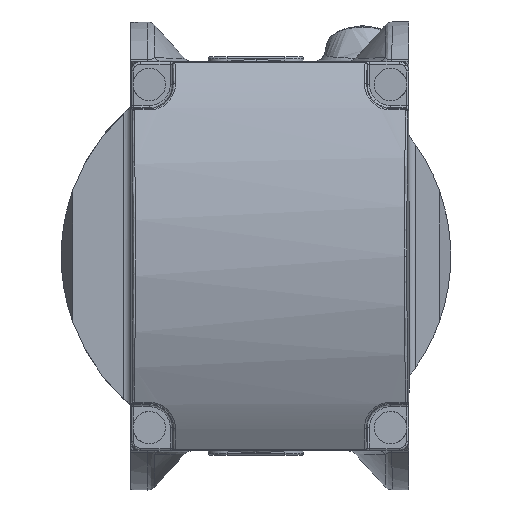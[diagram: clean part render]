
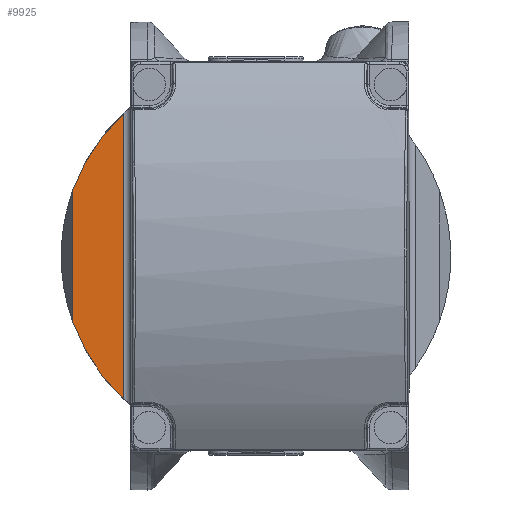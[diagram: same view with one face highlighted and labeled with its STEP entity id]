
A CAD part, left-side view. The second image highlights one B-rep face of the part: STEP entity #9925.
In plain terms, the highlighted planar face has unit normal (-1, 0, 0).
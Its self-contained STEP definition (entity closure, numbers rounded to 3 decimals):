
#398 = CARTESIAN_POINT ( 'NONE',  ( 877.5, 28.5, 1189.85 ) ) ;
#2365 = VECTOR ( 'NONE', #7289, 1000. ) ;
#2445 = CARTESIAN_POINT ( 'NONE',  ( 877.5, 28.5, 1128.15 ) ) ;
#3395 = DIRECTION ( 'NONE',  ( 1., 0., 0. ) ) ;
#3661 = CARTESIAN_POINT ( 'NONE',  ( 877.5, 47., 1216.5 ) ) ;
#4488 = VECTOR ( 'NONE', #9964, 1000. ) ;
#4510 = EDGE_CURVE ( 'NONE', #7395, #15414, #6872, .T. ) ;
#4522 = CARTESIAN_POINT ( 'NONE',  ( 877.5, 28.5, 1191.171 ) ) ;
#5015 = CIRCLE ( 'NONE', #16511, 42. ) ;
#5143 = EDGE_LOOP ( 'NONE', ( #9781, #9619, #11628, #12039 ) ) ;
#6136 = CARTESIAN_POINT ( 'NONE',  ( 877.5, 0., 1159. ) ) ;
#6872 = CIRCLE ( 'NONE', #7686, 42. ) ;
#7000 = DIRECTION ( 'NONE',  ( 0., 0., 1. ) ) ;
#7157 = AXIS2_PLACEMENT_3D ( 'NONE', #3661, #16471, #15381 ) ;
#7289 = DIRECTION ( 'NONE',  ( 0., 0., -1. ) ) ;
#7395 = VERTEX_POINT ( 'NONE', #2445 ) ;
#7686 = AXIS2_PLACEMENT_3D ( 'NONE', #15957, #3395, #7000 ) ;
#8374 = CARTESIAN_POINT ( 'NONE',  ( 877.5, 39.577, 1234. ) ) ;
#8648 = EDGE_CURVE ( 'NONE', #12457, #12350, #5015, .T. ) ;
#9615 = EDGE_CURVE ( 'NONE', #7395, #12350, #13650, .T. ) ;
#9619 = ORIENTED_EDGE ( 'NONE', *, *, #4510, .F. ) ;
#9622 = EDGE_CURVE ( 'NONE', #12457, #15414, #14724, .T. ) ;
#9644 = DIRECTION ( 'NONE',  ( 1., 0., 0. ) ) ;
#9781 = ORIENTED_EDGE ( 'NONE', *, *, #9622, .T. ) ;
#9925 = ADVANCED_FACE ( 'NONE', ( #10278 ), #16557, .T. ) ;
#9964 = DIRECTION ( 'NONE',  ( 0., 0., 1. ) ) ;
#10278 = FACE_OUTER_BOUND ( 'NONE', #5143, .T. ) ;
#11237 = DIRECTION ( 'NONE',  ( 0., 0., 1. ) ) ;
#11628 = ORIENTED_EDGE ( 'NONE', *, *, #9615, .T. ) ;
#12039 = ORIENTED_EDGE ( 'NONE', *, *, #8648, .F. ) ;
#12350 = VERTEX_POINT ( 'NONE', #398 ) ;
#12457 = VERTEX_POINT ( 'NONE', #14681 ) ;
#13650 = LINE ( 'NONE', #4522, #4488 ) ;
#14263 = CARTESIAN_POINT ( 'NONE',  ( 877.5, 39.577, 1144.942 ) ) ;
#14681 = CARTESIAN_POINT ( 'NONE',  ( 877.5, 39.577, 1173.058 ) ) ;
#14724 = LINE ( 'NONE', #8374, #2365 ) ;
#15381 = DIRECTION ( 'NONE',  ( 0., 0., 1. ) ) ;
#15414 = VERTEX_POINT ( 'NONE', #14263 ) ;
#15957 = CARTESIAN_POINT ( 'NONE',  ( 877.5, 0., 1159. ) ) ;
#16471 = DIRECTION ( 'NONE',  ( -1., 0., 0. ) ) ;
#16511 = AXIS2_PLACEMENT_3D ( 'NONE', #6136, #9644, #11237 ) ;
#16557 = PLANE ( 'NONE',  #7157 ) ;
